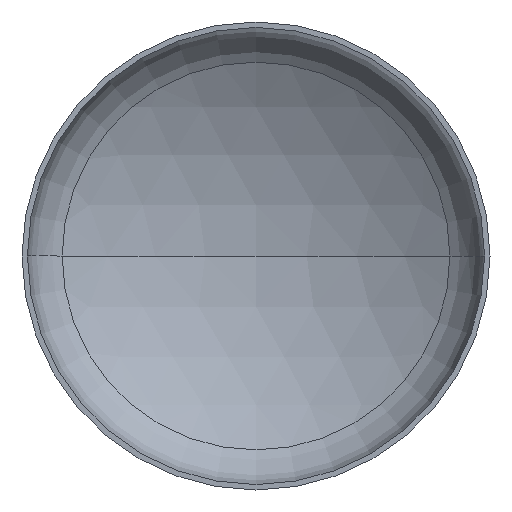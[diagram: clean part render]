
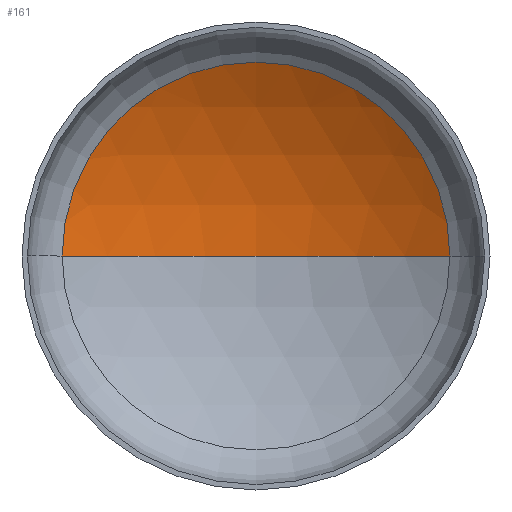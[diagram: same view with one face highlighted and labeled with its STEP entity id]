
A CAD part, front view. The second image highlights one B-rep face of the part: STEP entity #161.
In plain terms, the highlighted spherical face has radius 4400 mm.
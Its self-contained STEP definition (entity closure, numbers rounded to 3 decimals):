
#8 = VERTEX_POINT ( 'NONE', #28 ) ;
#11 = AXIS2_PLACEMENT_3D ( 'NONE', #411, #267, #54 ) ;
#18 = VERTEX_POINT ( 'NONE', #282 ) ;
#20 = DIRECTION ( 'NONE',  ( -1., 0., 0. ) ) ;
#28 = CARTESIAN_POINT ( 'NONE',  ( -2278.594, 842.867, 0. ) ) ;
#42 = ORIENTED_EDGE ( 'NONE', *, *, #374, .T. ) ;
#53 = CIRCLE ( 'NONE', #11, 2278.594 ) ;
#54 = DIRECTION ( 'NONE',  ( 1., 0., 0. ) ) ;
#59 = DIRECTION ( 'NONE',  ( 0., 0., -1. ) ) ;
#80 = ORIENTED_EDGE ( 'NONE', *, *, #341, .T. ) ;
#84 = ORIENTED_EDGE ( 'NONE', *, *, #288, .F. ) ;
#99 = CARTESIAN_POINT ( 'NONE',  ( 0., -2921.175, 0. ) ) ;
#125 = AXIS2_PLACEMENT_3D ( 'NONE', #99, #169, #20 ) ;
#127 = EDGE_LOOP ( 'NONE', ( #84, #42, #80 ) ) ;
#140 = VERTEX_POINT ( 'NONE', #200 ) ;
#141 = AXIS2_PLACEMENT_3D ( 'NONE', #268, #59, #299 ) ;
#143 = SPHERICAL_SURFACE ( 'NONE', #125, 4400. ) ;
#144 = CARTESIAN_POINT ( 'NONE',  ( 0., -2921.175, 0. ) ) ;
#161 = ADVANCED_FACE ( 'NONE', ( #233 ), #143, .F. ) ;
#169 = DIRECTION ( 'NONE',  ( 0., 0., -1. ) ) ;
#176 = DIRECTION ( 'NONE',  ( 1., 0., 0. ) ) ;
#200 = CARTESIAN_POINT ( 'NONE',  ( 0., 1478.825, 0. ) ) ;
#233 = FACE_OUTER_BOUND ( 'NONE', #127, .T. ) ;
#247 = CIRCLE ( 'NONE', #141, 4400. ) ;
#255 = AXIS2_PLACEMENT_3D ( 'NONE', #144, #342, #176 ) ;
#267 = DIRECTION ( 'NONE',  ( 0., -1., 0. ) ) ;
#268 = CARTESIAN_POINT ( 'NONE',  ( 0., -2921.175, 0. ) ) ;
#282 = CARTESIAN_POINT ( 'NONE',  ( 2278.594, 842.867, 0. ) ) ;
#288 = EDGE_CURVE ( 'NONE', #140, #8, #343, .T. ) ;
#299 = DIRECTION ( 'NONE',  ( -1., 0., 0. ) ) ;
#341 = EDGE_CURVE ( 'NONE', #18, #8, #53, .T. ) ;
#342 = DIRECTION ( 'NONE',  ( 0., 0., 1. ) ) ;
#343 = CIRCLE ( 'NONE', #255, 4400. ) ;
#374 = EDGE_CURVE ( 'NONE', #140, #18, #247, .T. ) ;
#411 = CARTESIAN_POINT ( 'NONE',  ( 0., 842.867, 0. ) ) ;
